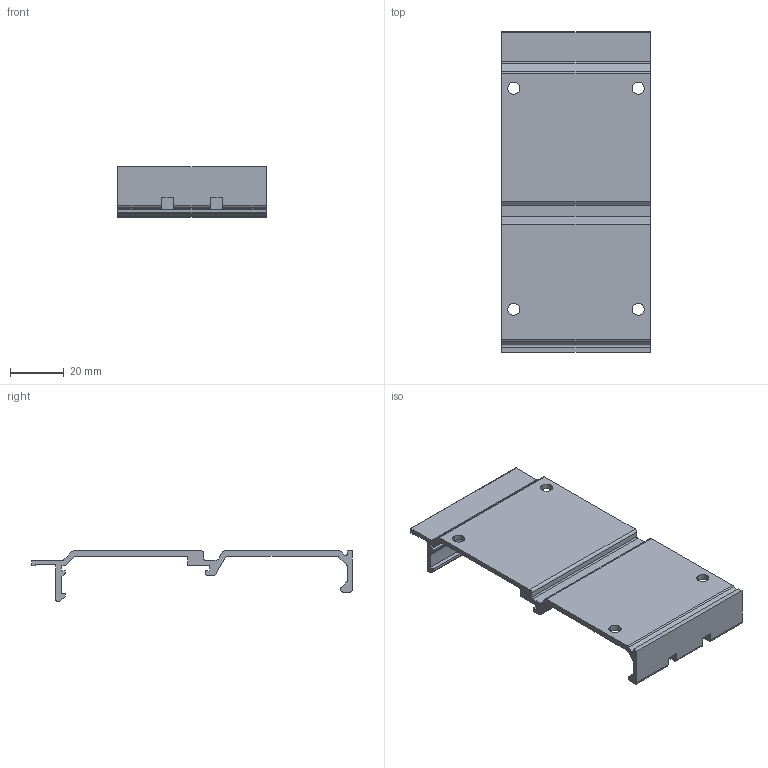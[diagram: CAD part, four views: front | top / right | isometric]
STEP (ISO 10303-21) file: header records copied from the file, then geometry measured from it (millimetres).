
FILE_DESCRIPTION (( 'STEP AP214' ), '1' );
FILE_NAME ('NX9020.STEP', '2021-03-19T11:08:54', ( '' ), ( '' ), 'SwSTEP 2.0', 'SolidWorks 2021', '' );
FILE_SCHEMA (( 'AUTOMOTIVE_DESIGN' ));
Length unit declared in the file: millimetre
Products named in the file (1): NX9020
Bounding box: 55.1 x 119 x 18.6 mm (x, y, z)
Volume: 18796.4 mm3; surface area: 18396.4 mm2
Topology: 1 solids, 1 shells, 100 faces, 294 edges, 196 vertices
Faces by surface type: plane 56, cylinder 44
Entity records: 3411 total; most frequent: CARTESIAN_POINT 591, DIRECTION 588, ORIENTED_EDGE 588, EDGE_CURVE 294, VECTOR 202, LINE 202, VERTEX_POINT 196, AXIS2_PLACEMENT_3D 193
